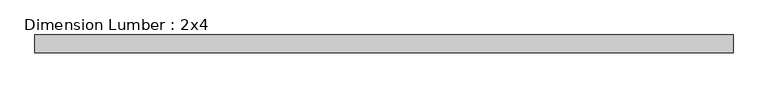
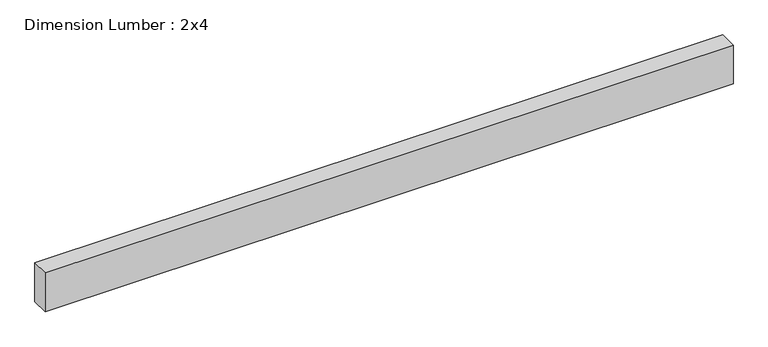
"""IFC4 building model written with IfcOpenShell, lengths in millimetres: beam geometry, Dimension Lumber : 2x4."""

from ifc_helpers import new_model, si_unit, frame, origin, place, context, project, spatial, polyline, outline, extrude, source, transform, mapped, element, save


def dimension_lumber_2x4_ab86ec2d(model_context):
    return source(origin(), model_context, "Body", "SweptSolid", [
        extrude(outline(polyline([(742.5087787, 19.05), (742.5087787, -19.05), (-742.5087787, -19.05), (-742.5087787, 19.05), (742.5087787, 19.05)])), frame((0.0, 0.0, -44.45), z_axis=(0.0, 0.0, 1.0), x_axis=(1.0, 0.0, 0.0)), (0.0, 0.0, 1.0), 88.9),
    ])


if __name__ == "__main__":
    model = new_model("IFC4")
    model_context = context("Model", 3, world=origin())
    ifc_project = project(units=[si_unit("LENGTHUNIT", "METRE", prefix="MILLI")], contexts=[model_context])
    site = spatial("IfcSite", under=ifc_project)
    building = spatial("IfcBuilding", under=site)
    placement = place(None, origin())
    dimension_lumber_2x4_shape = dimension_lumber_2x4_ab86ec2d(model_context)
    element("IfcBeam", 1, ObjectType="Dimension Lumber : 2x4", at=placement, inside=building, context=model_context, shape_type="MappedRepresentation", body=[
        mapped(dimension_lumber_2x4_shape, transform((0.0, 0.0, 0.0), x_axis=(1.0, 0.0, 0.0), y_axis=(0.0, 1.0, 0.0), z_axis=(0.0, 0.0, 1.0))),
    ])
    save(model, "model.ifc")
